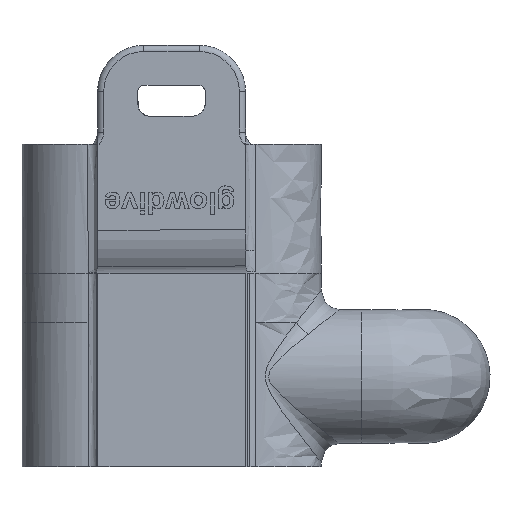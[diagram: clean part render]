
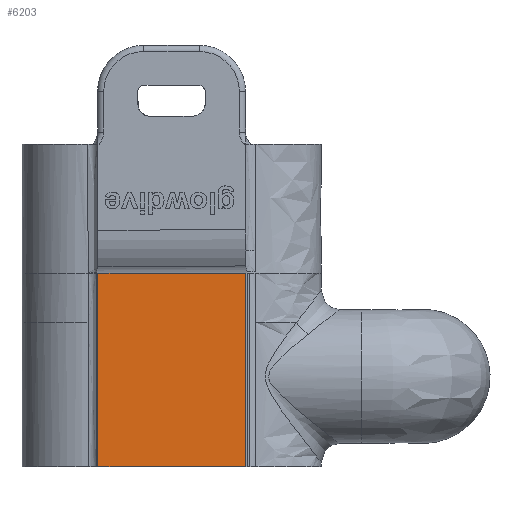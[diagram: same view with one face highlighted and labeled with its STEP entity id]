
A CAD part, front view. The second image highlights one B-rep face of the part: STEP entity #6203.
In plain terms, the highlighted free-form (B-spline) face has degree [2, 1] with [3, 2] control points.
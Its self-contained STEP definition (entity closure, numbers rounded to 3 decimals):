
#40=(
BOUNDED_CURVE()
B_SPLINE_CURVE(2,(#18895,#18896,#18897),.UNSPECIFIED.,.F.,.F.)
B_SPLINE_CURVE_WITH_KNOTS((3,3),(0.,2.41),
 .UNSPECIFIED.)
CURVE()
GEOMETRIC_REPRESENTATION_ITEM()
RATIONAL_B_SPLINE_CURVE((1.,1.,1.))
REPRESENTATION_ITEM('')
);
#185=(
BOUNDED_SURFACE()
B_SPLINE_SURFACE(2,1,((#18887,#18888),(#18889,#18890),(#18891,#18892)),
 .UNSPECIFIED.,.F.,.F.,.F.)
B_SPLINE_SURFACE_WITH_KNOTS((3,3),(2,2),(0.,2.41),
(0.,3.55),.UNSPECIFIED.)
GEOMETRIC_REPRESENTATION_ITEM()
RATIONAL_B_SPLINE_SURFACE(((1.,1.),(1.,
1.),(1.,1.)))
REPRESENTATION_ITEM('')
SURFACE()
);
#378=LINE('',#18885,#797);
#380=LINE('',#18894,#799);
#797=VECTOR('',#7316,10.);
#799=VECTOR('',#7318,10.);
#1235=B_SPLINE_CURVE_WITH_KNOTS('',3,(#13125,#13126,#13127,#13128,#13129,
#13130),.UNSPECIFIED.,.F.,.F.,(4,2,4),(-2.41,-1.206,
0.),.UNSPECIFIED.);
#1785=FACE_OUTER_BOUND('',#2120,.T.);
#2120=EDGE_LOOP('',(#5059,#5060,#5061,#5062));
#2754=VERTEX_POINT('',#13122);
#2755=VERTEX_POINT('',#13124);
#2820=VERTEX_POINT('',#18884);
#2821=VERTEX_POINT('',#18893);
#3509=EDGE_CURVE('',#2755,#2754,#1235,.T.);
#3642=EDGE_CURVE('',#2820,#2755,#378,.T.);
#3644=EDGE_CURVE('',#2821,#2754,#380,.T.);
#3645=EDGE_CURVE('',#2821,#2820,#40,.T.);
#5059=ORIENTED_EDGE('',*,*,#3644,.F.);
#5060=ORIENTED_EDGE('',*,*,#3645,.T.);
#5061=ORIENTED_EDGE('',*,*,#3642,.T.);
#5062=ORIENTED_EDGE('',*,*,#3509,.T.);
#6203=ADVANCED_FACE('',(#1785),#185,.T.);
#7316=DIRECTION('',(0.,0.,-1.));
#7318=DIRECTION('',(0.,0.,-1.));
#13122=CARTESIAN_POINT('',(9.626,-7.419,-5.484));
#13124=CARTESIAN_POINT('',(-14.471,-7.432,-5.484));
#13125=CARTESIAN_POINT('Ctrl Pts',(-14.471,-7.432,
-5.484));
#13126=CARTESIAN_POINT('Ctrl Pts',(-10.46,-7.43,
-5.484));
#13127=CARTESIAN_POINT('Ctrl Pts',(-6.448,-7.427,
-5.484));
#13128=CARTESIAN_POINT('Ctrl Pts',(1.584,-7.423,-5.484));
#13129=CARTESIAN_POINT('Ctrl Pts',(5.605,-7.421,-5.484));
#13130=CARTESIAN_POINT('Ctrl Pts',(9.626,-7.419,-5.484));
#18884=CARTESIAN_POINT('',(-14.471,-7.432,26.016));
#18885=CARTESIAN_POINT('',(-14.471,-7.432,26.016));
#18887=CARTESIAN_POINT('Ctrl Pts',(9.626,-7.419,26.016));
#18888=CARTESIAN_POINT('Ctrl Pts',(9.626,-7.419,-9.484));
#18889=CARTESIAN_POINT('Ctrl Pts',(-2.45,-7.425,
26.016));
#18890=CARTESIAN_POINT('Ctrl Pts',(-2.45,-7.425,
-9.484));
#18891=CARTESIAN_POINT('Ctrl Pts',(-14.471,-7.432,
26.016));
#18892=CARTESIAN_POINT('Ctrl Pts',(-14.471,-7.432,
-9.484));
#18893=CARTESIAN_POINT('',(9.626,-7.419,26.016));
#18894=CARTESIAN_POINT('',(9.626,-7.419,26.016));
#18895=CARTESIAN_POINT('Ctrl Pts',(9.626,-7.419,26.016));
#18896=CARTESIAN_POINT('Ctrl Pts',(-2.45,-7.425,
26.016));
#18897=CARTESIAN_POINT('Ctrl Pts',(-14.471,-7.432,
26.016));
